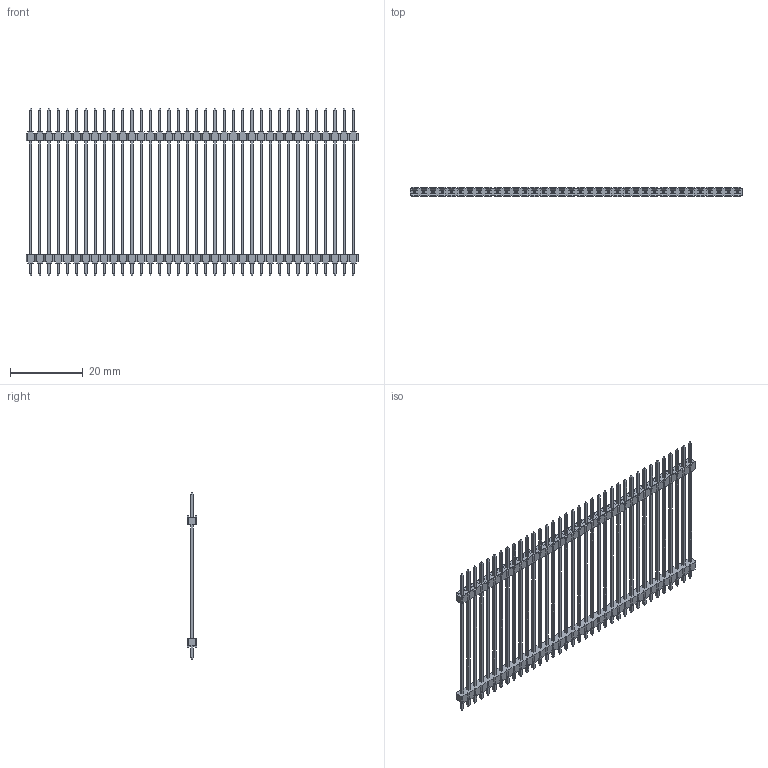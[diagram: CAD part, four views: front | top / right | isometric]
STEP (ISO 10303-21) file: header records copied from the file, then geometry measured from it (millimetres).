
FILE_DESCRIPTION(/* description */ (''),/* implementation_level */ '2;1');
FILE_NAME(/* name */ '961436-9041704-XX',/* time_stamp */ '2007-06-14T19:08:43+02:00',/* author */ (''),/* organization */ (''),/* preprocessor_version */ 'ST-DEVELOPER v9',/* originating_system */ 'UGS - NX 3.0',/* authorisation */ '');
FILE_SCHEMA (('AUTOMOTIVE_DESIGN { 1 0 10303 214 1 1 1 1 }'));
Length unit declared in the file: millimetre
Products named in the file (1): 961436-9041704-XX
Bounding box: 91.44 x 2.5 x 46.1 mm (x, y, z)
Volume: 1545.3 mm3; surface area: 5701 mm2
Topology: 1 solids, 1 shells, 1956 faces, 5352 edges, 3472 vertices
Faces by surface type: plane 1956
Entity records: 60376 total; most frequent: CARTESIAN_POINT 10781, ORIENTED_EDGE 10704, DIRECTION 9266, EDGE_CURVE 5352, LINE 5352, VECTOR 5352, VERTEX_POINT 3472, EDGE_LOOP 2100
